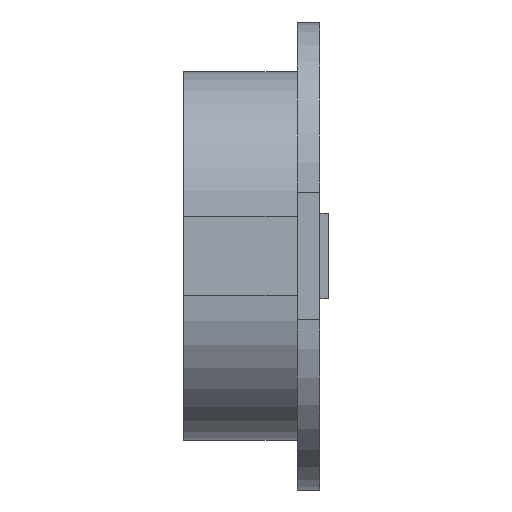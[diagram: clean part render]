
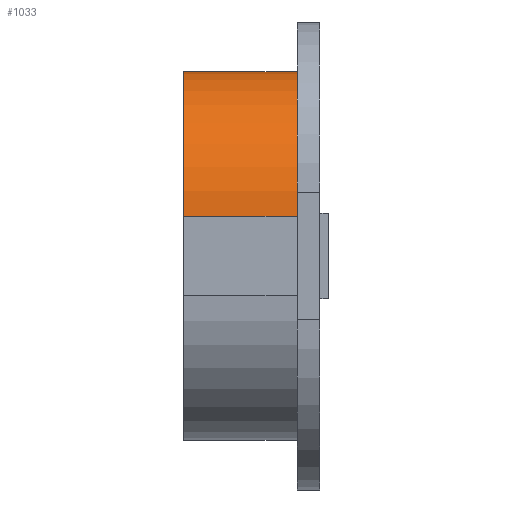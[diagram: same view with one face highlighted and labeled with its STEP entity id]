
A CAD part, front view. The second image highlights one B-rep face of the part: STEP entity #1033.
In plain terms, the highlighted cylindrical face has radius 5.1 mm (diameter 10.2 mm), a partial arc.
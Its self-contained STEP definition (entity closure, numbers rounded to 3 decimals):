
#44 = PLANE('',#45);
#45 = AXIS2_PLACEMENT_3D('',#46,#47,#48);
#46 = CARTESIAN_POINT('',(-40.7,-26.3,8.25));
#47 = DIRECTION('',(-1.,0.,0.));
#48 = DIRECTION('',(0.,0.,1.));
#340 = EDGE_CURVE('',#341,#343,#345,.T.);
#341 = VERTEX_POINT('',#342);
#342 = CARTESIAN_POINT('',(-40.7,-19.7,6.5));
#343 = VERTEX_POINT('',#344);
#344 = CARTESIAN_POINT('',(-40.7,-24.8,1.4));
#345 = SURFACE_CURVE('',#346,(#351,#362),.PCURVE_S1.);
#346 = CIRCLE('',#347,5.1);
#347 = AXIS2_PLACEMENT_3D('',#348,#349,#350);
#348 = CARTESIAN_POINT('',(-40.7,-19.7,1.4));
#349 = DIRECTION('',(1.,0.,0.));
#350 = DIRECTION('',(-0.,-1.,-0.));
#351 = PCURVE('',#44,#352);
#352 = DEFINITIONAL_REPRESENTATION('',(#353),#361);
#353 = ( BOUNDED_CURVE() B_SPLINE_CURVE(2,(#354,#355,#356,#357,#358,#359
,#360),.UNSPECIFIED.,.T.,.F.) B_SPLINE_CURVE_WITH_KNOTS((1,2,2,2,2,1),(
    -2.094,0.,2.094,4.189,6.283,
8.378),.UNSPECIFIED.) CURVE() GEOMETRIC_REPRESENTATION_ITEM() 
RATIONAL_B_SPLINE_CURVE((1.,0.5,1.,0.5,1.,0.5,1.)) REPRESENTATION_ITEM(
  '') );
#354 = CARTESIAN_POINT('',(-6.85,1.5));
#355 = CARTESIAN_POINT('',(-15.683,1.5));
#356 = CARTESIAN_POINT('',(-11.267,9.15));
#357 = CARTESIAN_POINT('',(-6.85,16.8));
#358 = CARTESIAN_POINT('',(-2.433,9.15));
#359 = CARTESIAN_POINT('',(1.983,1.5));
#360 = CARTESIAN_POINT('',(-6.85,1.5));
#361 = ( GEOMETRIC_REPRESENTATION_CONTEXT(2) 
PARAMETRIC_REPRESENTATION_CONTEXT() REPRESENTATION_CONTEXT('2D SPACE',''
  ) );
#362 = PCURVE('',#363,#368);
#363 = CYLINDRICAL_SURFACE('',#364,5.1);
#364 = AXIS2_PLACEMENT_3D('',#365,#366,#367);
#365 = CARTESIAN_POINT('',(-40.9,-19.7,1.4));
#366 = DIRECTION('',(-1.,-0.,0.));
#367 = DIRECTION('',(0.,-0.,1.));
#368 = DEFINITIONAL_REPRESENTATION('',(#369),#373);
#369 = LINE('',#370,#371);
#370 = CARTESIAN_POINT('',(4.712,-0.2));
#371 = VECTOR('',#372,1.);
#372 = DIRECTION('',(-1.,0.));
#373 = ( GEOMETRIC_REPRESENTATION_CONTEXT(2) 
PARAMETRIC_REPRESENTATION_CONTEXT() REPRESENTATION_CONTEXT('2D SPACE',''
  ) );
#391 = PLANE('',#392);
#392 = AXIS2_PLACEMENT_3D('',#393,#394,#395);
#393 = CARTESIAN_POINT('',(-40.9,-24.8,6.5));
#394 = DIRECTION('',(0.,-0.,-1.));
#395 = DIRECTION('',(1.,0.,0.));
#564 = PLANE('',#565);
#565 = AXIS2_PLACEMENT_3D('',#566,#567,#568);
#566 = CARTESIAN_POINT('',(-40.9,-24.8,6.5));
#567 = DIRECTION('',(-0.,1.,-0.));
#568 = DIRECTION('',(1.,0.,0.));
#1033 = ADVANCED_FACE('',(#1034),#363,.T.);
#1034 = FACE_BOUND('',#1035,.F.);
#1035 = EDGE_LOOP('',(#1036,#1059,#1060,#1083));
#1036 = ORIENTED_EDGE('',*,*,#1037,.F.);
#1037 = EDGE_CURVE('',#341,#1038,#1040,.T.);
#1038 = VERTEX_POINT('',#1039);
#1039 = CARTESIAN_POINT('',(-44.7,-19.7,6.5));
#1040 = SURFACE_CURVE('',#1041,(#1045,#1052),.PCURVE_S1.);
#1041 = LINE('',#1042,#1043);
#1042 = CARTESIAN_POINT('',(-40.7,-19.7,6.5));
#1043 = VECTOR('',#1044,1.);
#1044 = DIRECTION('',(-1.,-0.,-0.));
#1045 = PCURVE('',#363,#1046);
#1046 = DEFINITIONAL_REPRESENTATION('',(#1047),#1051);
#1047 = LINE('',#1048,#1049);
#1048 = CARTESIAN_POINT('',(-0.,-0.2));
#1049 = VECTOR('',#1050,1.);
#1050 = DIRECTION('',(-0.,1.));
#1051 = ( GEOMETRIC_REPRESENTATION_CONTEXT(2) 
PARAMETRIC_REPRESENTATION_CONTEXT() REPRESENTATION_CONTEXT('2D SPACE',''
  ) );
#1052 = PCURVE('',#391,#1053);
#1053 = DEFINITIONAL_REPRESENTATION('',(#1054),#1058);
#1054 = LINE('',#1055,#1056);
#1055 = CARTESIAN_POINT('',(0.2,-5.1));
#1056 = VECTOR('',#1057,1.);
#1057 = DIRECTION('',(-1.,0.));
#1058 = ( GEOMETRIC_REPRESENTATION_CONTEXT(2) 
PARAMETRIC_REPRESENTATION_CONTEXT() REPRESENTATION_CONTEXT('2D SPACE',''
  ) );
#1059 = ORIENTED_EDGE('',*,*,#340,.T.);
#1060 = ORIENTED_EDGE('',*,*,#1061,.T.);
#1061 = EDGE_CURVE('',#343,#1062,#1064,.T.);
#1062 = VERTEX_POINT('',#1063);
#1063 = CARTESIAN_POINT('',(-44.7,-24.8,1.4));
#1064 = SURFACE_CURVE('',#1065,(#1069,#1076),.PCURVE_S1.);
#1065 = LINE('',#1066,#1067);
#1066 = CARTESIAN_POINT('',(-40.7,-24.8,1.4));
#1067 = VECTOR('',#1068,1.);
#1068 = DIRECTION('',(-1.,-0.,0.));
#1069 = PCURVE('',#363,#1070);
#1070 = DEFINITIONAL_REPRESENTATION('',(#1071),#1075);
#1071 = LINE('',#1072,#1073);
#1072 = CARTESIAN_POINT('',(-1.571,-0.2));
#1073 = VECTOR('',#1074,1.);
#1074 = DIRECTION('',(-0.,1.));
#1075 = ( GEOMETRIC_REPRESENTATION_CONTEXT(2) 
PARAMETRIC_REPRESENTATION_CONTEXT() REPRESENTATION_CONTEXT('2D SPACE',''
  ) );
#1076 = PCURVE('',#564,#1077);
#1077 = DEFINITIONAL_REPRESENTATION('',(#1078),#1082);
#1078 = LINE('',#1079,#1080);
#1079 = CARTESIAN_POINT('',(0.2,5.1));
#1080 = VECTOR('',#1081,1.);
#1081 = DIRECTION('',(-1.,0.));
#1082 = ( GEOMETRIC_REPRESENTATION_CONTEXT(2) 
PARAMETRIC_REPRESENTATION_CONTEXT() REPRESENTATION_CONTEXT('2D SPACE',''
  ) );
#1083 = ORIENTED_EDGE('',*,*,#1084,.F.);
#1084 = EDGE_CURVE('',#1038,#1062,#1085,.T.);
#1085 = SURFACE_CURVE('',#1086,(#1091,#1098),.PCURVE_S1.);
#1086 = CIRCLE('',#1087,5.1);
#1087 = AXIS2_PLACEMENT_3D('',#1088,#1089,#1090);
#1088 = CARTESIAN_POINT('',(-44.7,-19.7,1.4));
#1089 = DIRECTION('',(1.,0.,0.));
#1090 = DIRECTION('',(-0.,-1.,-0.));
#1091 = PCURVE('',#363,#1092);
#1092 = DEFINITIONAL_REPRESENTATION('',(#1093),#1097);
#1093 = LINE('',#1094,#1095);
#1094 = CARTESIAN_POINT('',(4.712,3.8));
#1095 = VECTOR('',#1096,1.);
#1096 = DIRECTION('',(-1.,0.));
#1097 = ( GEOMETRIC_REPRESENTATION_CONTEXT(2) 
PARAMETRIC_REPRESENTATION_CONTEXT() REPRESENTATION_CONTEXT('2D SPACE',''
  ) );
#1098 = PCURVE('',#1099,#1104);
#1099 = PLANE('',#1100);
#1100 = AXIS2_PLACEMENT_3D('',#1101,#1102,#1103);
#1101 = CARTESIAN_POINT('',(-44.7,-24.8,6.5));
#1102 = DIRECTION('',(-1.,0.,0.));
#1103 = DIRECTION('',(0.,0.,1.));
#1104 = DEFINITIONAL_REPRESENTATION('',(#1105),#1113);
#1105 = ( BOUNDED_CURVE() B_SPLINE_CURVE(2,(#1106,#1107,#1108,#1109,
#1110,#1111,#1112),.UNSPECIFIED.,.T.,.F.) B_SPLINE_CURVE_WITH_KNOTS((1,2
    ,2,2,2,1),(-2.094,0.,2.094,4.189,
6.283,8.378),.UNSPECIFIED.) CURVE() 
GEOMETRIC_REPRESENTATION_ITEM() RATIONAL_B_SPLINE_CURVE((1.,0.5,1.,0.5,
1.,0.5,1.)) REPRESENTATION_ITEM('') );
#1106 = CARTESIAN_POINT('',(-5.1,0.));
#1107 = CARTESIAN_POINT('',(-13.933,0.));
#1108 = CARTESIAN_POINT('',(-9.517,7.65));
#1109 = CARTESIAN_POINT('',(-5.1,15.3));
#1110 = CARTESIAN_POINT('',(-0.683,7.65));
#1111 = CARTESIAN_POINT('',(3.733,0.));
#1112 = CARTESIAN_POINT('',(-5.1,0.));
#1113 = ( GEOMETRIC_REPRESENTATION_CONTEXT(2) 
PARAMETRIC_REPRESENTATION_CONTEXT() REPRESENTATION_CONTEXT('2D SPACE',''
  ) );
